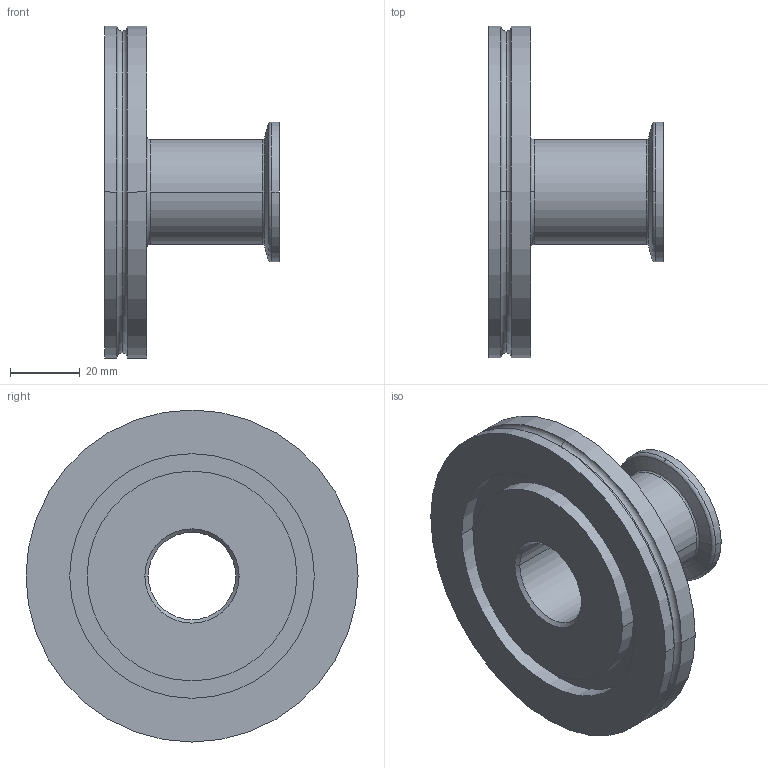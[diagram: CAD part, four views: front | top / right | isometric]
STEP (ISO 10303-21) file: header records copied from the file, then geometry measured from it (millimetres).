
FILE_DESCRIPTION((''),'2;1');
FILE_NAME('W:\212-176.stp','2004-01-08T10:42:49',('KAA'),(''),'Autodesk Inventor (R) 6.0','Autodesk Inventor (R) 6.0','');
FILE_SCHEMA(('CONFIG_CONTROL_DESIGN'));
Length unit declared in the file: millimetre
Products named in the file (1): 212-176
Bounding box: 50 x 95 x 95 mm (x, y, z)
Volume: 80635 mm3; surface area: 28649.8 mm2
Topology: 1 solids, 1 shells, 42 faces, 99 edges, 65 vertices
Faces by surface type: cylinder 20, plane 8, torus 6, bspline 4, cone 4
Entity records: 1513 total; most frequent: CARTESIAN_POINT 383, DIRECTION 252, ORIENTED_EDGE 198, AXIS2_PLACEMENT_3D 114, EDGE_CURVE 99, CIRCLE 75, VERTEX_POINT 65, EDGE_LOOP 50
